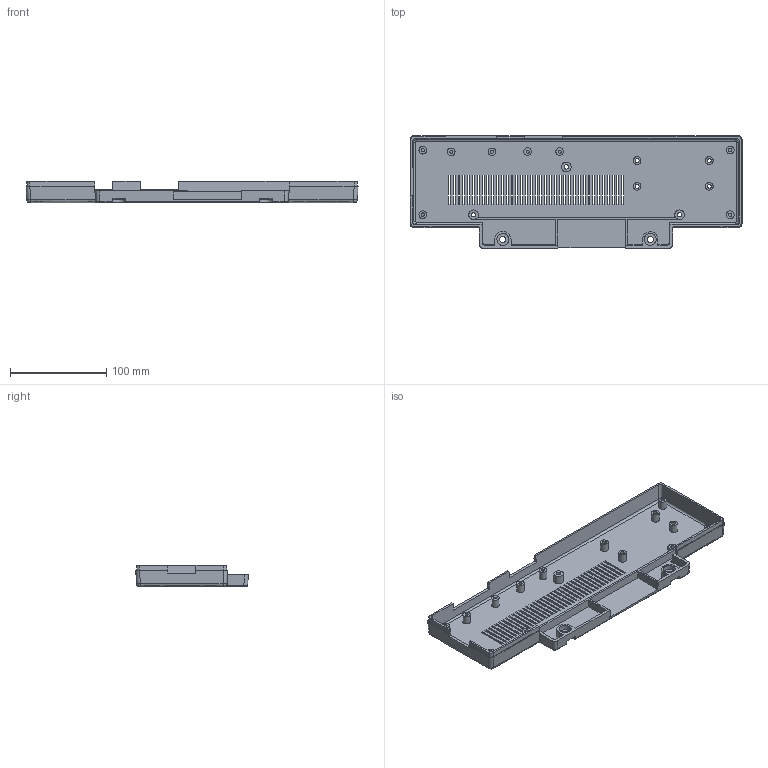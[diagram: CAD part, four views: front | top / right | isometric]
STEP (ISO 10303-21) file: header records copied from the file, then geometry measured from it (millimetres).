
FILE_DESCRIPTION(('FreeCAD Model'),'2;1');
FILE_NAME('Open CASCADE Shape Model','2023-09-06T18:13:58',(''),(''), 'Open CASCADE STEP processor 7.6','FreeCAD','Unknown');
FILE_SCHEMA(('AUTOMOTIVE_DESIGN { 1 0 10303 214 1 1 1 1 }'));
Length unit declared in the file: millimetre
Products named in the file (1): Lower_Body_Sol
Bounding box: 344.77 x 116.83 x 22 mm (x, y, z)
Volume: 149817.1 mm3; surface area: 114377.6 mm2
Topology: 1 solids, 1 shells, 376 faces, 1004 edges, 650 vertices
Faces by surface type: plane 244, cylinder 68, bspline 58, torus 6
Full cylindrical faces by diameter (mm): 3.2 x4, 3.6 x4, 4 x4, 4.6 x3, 6.4 x2, 8 x19, 10 x3, 12.4 x2
Entity records: 37904 total; most frequent: CARTESIAN_POINT 18575, DIRECTION 3329, LINE 2306, VECTOR 2306, ORIENTED_EDGE 1988, PCURVE 1988, DEFINITIONAL_REPRESENTATION 1988, EDGE_CURVE 994
